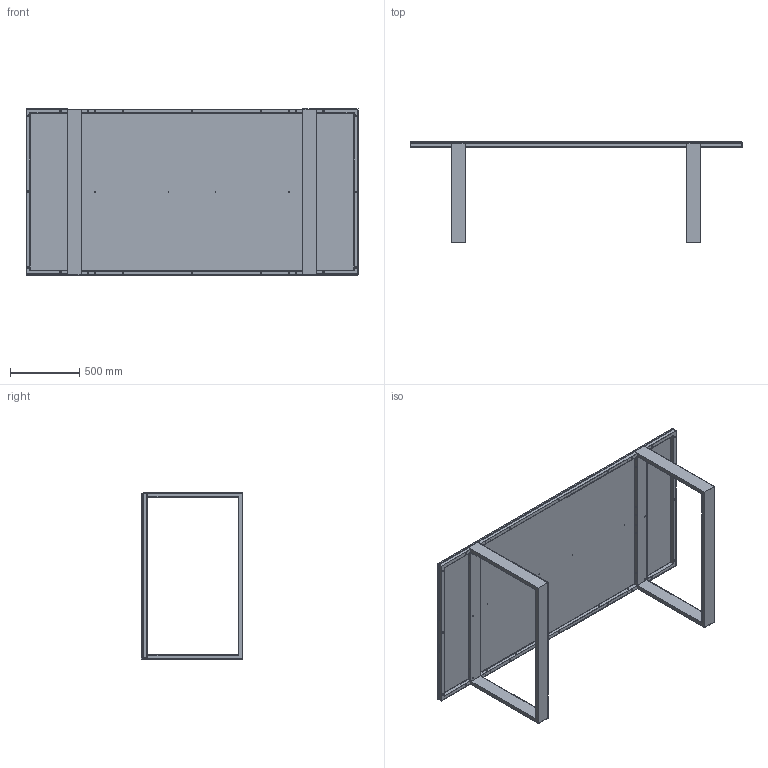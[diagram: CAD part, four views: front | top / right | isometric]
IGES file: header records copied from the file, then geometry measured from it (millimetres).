
Start section: SolidWorks IGES file using NURBS representation for surfaces
Global section: file name: G:\VICCARBE\PRODUCTOS\12-LEG-IN\04-MODELADOS (PLANOS)\SOLIDWORKS\LEG_IN 2011\ENSAMBLAJES\Mesas 3D\IGES\VICCARBE_LEBR240.IGS; native system: SolidWorks 2009; preprocessor: SolidWorks 2009; author: RUBEN; date: 111024.092833; units: millimetre
Bounding box: 2400 x 732 x 1200 mm (x, y, z)
Surface area: 11087815.2 mm2 (no closed solid volume)
Topology: 0 solids, 0 shells, 371 faces, 6552 edges, 6508 vertices
Faces by surface type: bspline 371
